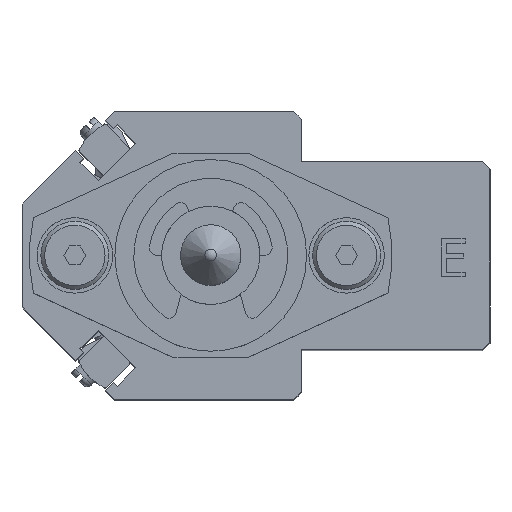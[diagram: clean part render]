
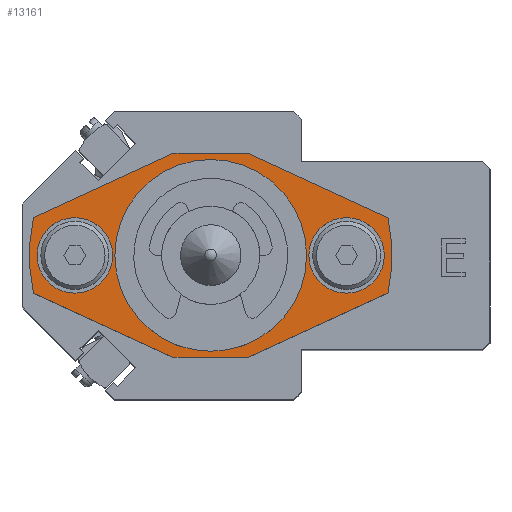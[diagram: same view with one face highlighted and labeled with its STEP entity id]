
A CAD part, top view. The second image highlights one B-rep face of the part: STEP entity #13161.
In plain terms, the highlighted planar face has unit normal (0, 0, 1).
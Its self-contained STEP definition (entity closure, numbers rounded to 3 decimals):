
#364=FACE_BOUND('',#4817,.T.);
#365=FACE_BOUND('',#4818,.T.);
#366=FACE_BOUND('',#4819,.T.);
#1539=LINE('',#21658,#2927);
#1546=LINE('',#21675,#2934);
#1547=LINE('',#21678,#2935);
#1548=LINE('',#21679,#2936);
#1549=LINE('',#21681,#2937);
#1550=LINE('',#21682,#2938);
#2927=VECTOR('',#17548,10.);
#2934=VECTOR('',#17563,10.);
#2935=VECTOR('',#17566,10.);
#2936=VECTOR('',#17567,10.);
#2937=VECTOR('',#17568,10.);
#2938=VECTOR('',#17569,10.);
#3415=CIRCLE('',#14429,10.5);
#3416=CIRCLE('',#14430,10.5);
#3423=CIRCLE('',#14441,24.);
#3425=CIRCLE('',#14444,24.);
#3428=CIRCLE('',#14451,5.);
#3429=CIRCLE('',#14452,5.);
#3430=CIRCLE('',#14453,5.);
#3431=CIRCLE('',#14454,5.);
#4119=FACE_OUTER_BOUND('',#4816,.T.);
#4816=EDGE_LOOP('',(#11050,#11051,#11052,#11053,#11054,#11055,#11056,#11057));
#4817=EDGE_LOOP('',(#11058,#11059));
#4818=EDGE_LOOP('',(#11060,#11061));
#4819=EDGE_LOOP('',(#11062,#11063));
#5984=VERTEX_POINT('',#21616);
#5985=VERTEX_POINT('',#21618);
#5993=VERTEX_POINT('',#21639);
#5994=VERTEX_POINT('',#21641);
#5997=VERTEX_POINT('',#21648);
#5998=VERTEX_POINT('',#21650);
#6000=VERTEX_POINT('',#21656);
#6006=VERTEX_POINT('',#21673);
#6007=VERTEX_POINT('',#21677);
#6008=VERTEX_POINT('',#21680);
#6009=VERTEX_POINT('',#21683);
#6010=VERTEX_POINT('',#21684);
#6011=VERTEX_POINT('',#21687);
#6012=VERTEX_POINT('',#21688);
#7728=EDGE_CURVE('',#5985,#5984,#3415,.T.);
#7729=EDGE_CURVE('',#5984,#5985,#3416,.T.);
#7738=EDGE_CURVE('',#5994,#5993,#3423,.T.);
#7742=EDGE_CURVE('',#5998,#5997,#3425,.T.);
#7746=EDGE_CURVE('',#5993,#6000,#1539,.T.);
#7755=EDGE_CURVE('',#5997,#6006,#1546,.T.);
#7756=EDGE_CURVE('',#6000,#6007,#1547,.T.);
#7757=EDGE_CURVE('',#6007,#5998,#1548,.T.);
#7758=EDGE_CURVE('',#6006,#6008,#1549,.T.);
#7759=EDGE_CURVE('',#6008,#5994,#1550,.T.);
#7760=EDGE_CURVE('',#6009,#6010,#3428,.T.);
#7761=EDGE_CURVE('',#6010,#6009,#3429,.T.);
#7762=EDGE_CURVE('',#6011,#6012,#3430,.T.);
#7763=EDGE_CURVE('',#6012,#6011,#3431,.T.);
#11050=ORIENTED_EDGE('',*,*,#7738,.T.);
#11051=ORIENTED_EDGE('',*,*,#7746,.T.);
#11052=ORIENTED_EDGE('',*,*,#7756,.T.);
#11053=ORIENTED_EDGE('',*,*,#7757,.T.);
#11054=ORIENTED_EDGE('',*,*,#7742,.T.);
#11055=ORIENTED_EDGE('',*,*,#7755,.T.);
#11056=ORIENTED_EDGE('',*,*,#7758,.T.);
#11057=ORIENTED_EDGE('',*,*,#7759,.T.);
#11058=ORIENTED_EDGE('',*,*,#7728,.T.);
#11059=ORIENTED_EDGE('',*,*,#7729,.T.);
#11060=ORIENTED_EDGE('',*,*,#7760,.T.);
#11061=ORIENTED_EDGE('',*,*,#7761,.T.);
#11062=ORIENTED_EDGE('',*,*,#7762,.T.);
#11063=ORIENTED_EDGE('',*,*,#7763,.T.);
#12357=PLANE('',#14450);
#13161=ADVANCED_FACE('',(#4119,#364,#365,#366),#12357,.T.);
#14429=AXIS2_PLACEMENT_3D('',#21619,#17507,#17508);
#14430=AXIS2_PLACEMENT_3D('',#21620,#17509,#17510);
#14441=AXIS2_PLACEMENT_3D('',#21642,#17533,#17534);
#14444=AXIS2_PLACEMENT_3D('',#21651,#17541,#17542);
#14450=AXIS2_PLACEMENT_3D('',#21676,#17564,#17565);
#14451=AXIS2_PLACEMENT_3D('',#21685,#17570,#17571);
#14452=AXIS2_PLACEMENT_3D('',#21686,#17572,#17573);
#14453=AXIS2_PLACEMENT_3D('',#21689,#17574,#17575);
#14454=AXIS2_PLACEMENT_3D('',#21690,#17576,#17577);
#17507=DIRECTION('center_axis',(0.,0.,-1.));
#17508=DIRECTION('ref_axis',(1.,0.,0.));
#17509=DIRECTION('center_axis',(0.,0.,-1.));
#17510=DIRECTION('ref_axis',(1.,0.,0.));
#17533=DIRECTION('center_axis',(0.,0.,1.));
#17534=DIRECTION('ref_axis',(0.978,-0.208,0.));
#17541=DIRECTION('center_axis',(0.,0.,1.));
#17542=DIRECTION('ref_axis',(-0.978,0.208,0.));
#17548=DIRECTION('',(0.908,-0.418,0.));
#17563=DIRECTION('',(-0.908,0.418,0.));
#17564=DIRECTION('center_axis',(0.,0.,1.));
#17565=DIRECTION('ref_axis',(1.,0.,0.));
#17566=DIRECTION('',(1.,0.,0.));
#17567=DIRECTION('',(0.908,0.418,0.));
#17568=DIRECTION('',(-1.,0.,0.));
#17569=DIRECTION('',(-0.908,-0.418,0.));
#17570=DIRECTION('center_axis',(0.,0.,-1.));
#17571=DIRECTION('ref_axis',(1.,0.,0.));
#17572=DIRECTION('center_axis',(0.,0.,-1.));
#17573=DIRECTION('ref_axis',(1.,0.,0.));
#17574=DIRECTION('center_axis',(0.,0.,-1.));
#17575=DIRECTION('ref_axis',(1.,0.,0.));
#17576=DIRECTION('center_axis',(0.,0.,-1.));
#17577=DIRECTION('ref_axis',(1.,0.,0.));
#21616=CARTESIAN_POINT('',(-10.5,0.,6.));
#21618=CARTESIAN_POINT('',(10.5,0.,6.));
#21619=CARTESIAN_POINT('Origin',(0.,0.,6.));
#21620=CARTESIAN_POINT('Origin',(0.,0.,6.));
#21639=CARTESIAN_POINT('',(-23.473,-5.001,6.));
#21641=CARTESIAN_POINT('',(-23.473,5.001,6.));
#21642=CARTESIAN_POINT('Origin',(0.,0.,6.));
#21648=CARTESIAN_POINT('',(23.473,5.001,6.));
#21650=CARTESIAN_POINT('',(23.473,-5.001,6.));
#21651=CARTESIAN_POINT('Origin',(0.,0.,6.));
#21656=CARTESIAN_POINT('',(-5.,-13.5,6.));
#21658=CARTESIAN_POINT('',(-15.7,-8.578,6.));
#21673=CARTESIAN_POINT('',(5.,13.5,6.));
#21675=CARTESIAN_POINT('',(15.7,8.578,6.));
#21676=CARTESIAN_POINT('Origin',(0.,0.,6.));
#21677=CARTESIAN_POINT('',(5.,-13.5,6.));
#21678=CARTESIAN_POINT('',(25.4,-13.5,6.));
#21679=CARTESIAN_POINT('',(15.7,-8.578,6.));
#21680=CARTESIAN_POINT('',(-5.,13.5,6.));
#21681=CARTESIAN_POINT('',(-25.4,13.5,6.));
#21682=CARTESIAN_POINT('',(-15.7,8.578,6.));
#21683=CARTESIAN_POINT('',(-13.,0.,6.));
#21684=CARTESIAN_POINT('',(-23.,0.,6.));
#21685=CARTESIAN_POINT('Origin',(-18.,0.,6.));
#21686=CARTESIAN_POINT('Origin',(-18.,0.,6.));
#21687=CARTESIAN_POINT('',(23.,0.,6.));
#21688=CARTESIAN_POINT('',(13.,0.,6.));
#21689=CARTESIAN_POINT('Origin',(18.,0.,6.));
#21690=CARTESIAN_POINT('Origin',(18.,0.,6.));
